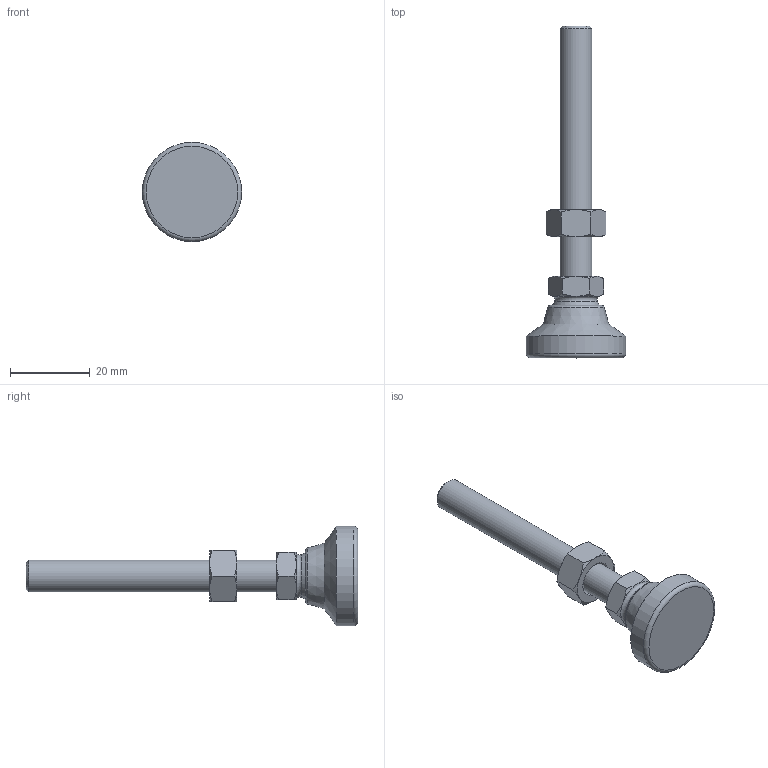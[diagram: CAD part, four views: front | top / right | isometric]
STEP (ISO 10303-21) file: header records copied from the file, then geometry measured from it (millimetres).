
FILE_DESCRIPTION( ( 'STEP AP214' ), ' ' );
FILE_NAME( 'O:/ganter_2015/teil_2/2_5/gn343_2/gn343_2_kse/Levelling foot with threaded stud GN 343.2-25-M8-63-KSE-(0).stp', '2015-10-26T09:15:15', ( '' ), ( '' ), ' ', 'PARTsolutions', ' ' );
FILE_SCHEMA( ( 'AUTOMOTIVE_DESIGN { 1 0 10303 214 1 1 1 1 }' ) );
Length unit declared in the file: millimetre
Products named in the file (4): Levelling foot with threaded stud GN 343.2-25-M8-63-KSE-(0); _Levelling foot with threaded stud GN 343.2-25-M8-63-KSE-(0)_foot; _Levelling foot with threaded stud GN 343.2-25-M8-63-KSE-(0)_screw; _Levelling foot with threaded stud GN 343.2-25-M8-63-KSE-(0)_nut
Assembly tree (3 placements, depth 2):
  Levelling foot with threaded stud GN 343.2-25-M8-63-KSE-(0)
    _Levelling foot with threaded stud GN 343.2-25-M8-63-KSE-(0)_foot
    _Levelling foot with threaded stud GN 343.2-25-M8-63-KSE-(0)_screw
    _Levelling foot with threaded stud GN 343.2-25-M8-63-KSE-(0)_nut
Bounding box: 25 x 83.5 x 25 mm (x, y, z)
Volume: 9299.5 mm3; surface area: 4796.3 mm2
Topology: 3 solids, 3 shells, 50 faces, 107 edges, 63 vertices
Faces by surface type: cone 24, plane 18, torus 3, cylinder 3, sphere 2
Full cylindrical faces by diameter (mm): 6.647 x1, 8 x1, 25 x1
Entity records: 1858 total; most frequent: CARTESIAN_POINT 452, DIRECTION 188, ORIENTED_EDGE 176, AXIS2_PLACEMENT_3D 88, EDGE_CURVE 88, EDGE_LOOP 66, VERTEX_POINT 60, FACE_OUTER_BOUND 56
